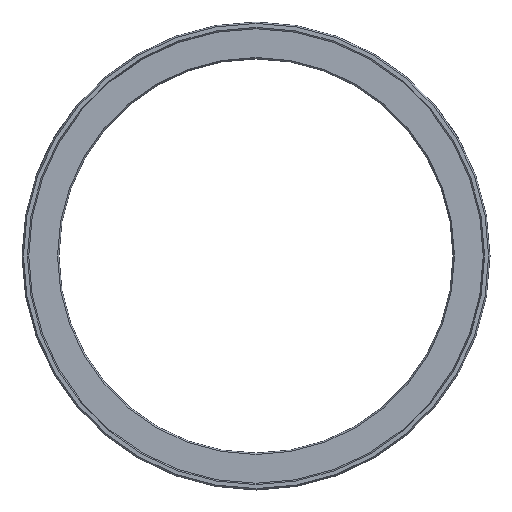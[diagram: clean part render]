
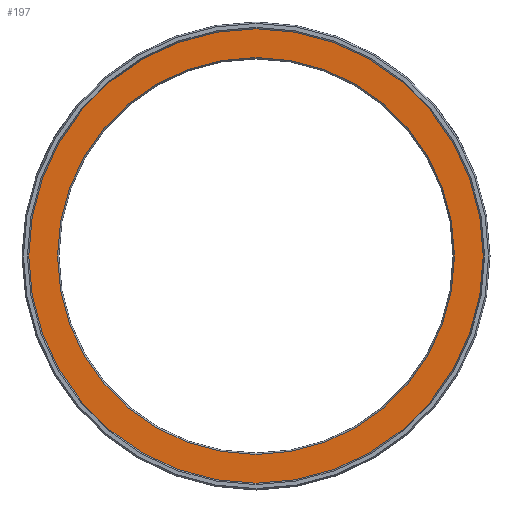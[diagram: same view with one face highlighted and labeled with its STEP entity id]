
A CAD part, left-side view. The second image highlights one B-rep face of the part: STEP entity #197.
In plain terms, the highlighted planar face has unit normal (-1, 0, 0).
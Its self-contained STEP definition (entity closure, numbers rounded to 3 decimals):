
#163=PLANE('',#797);
#197=ADVANCED_FACE('',(#265,#266),#163,.T.);
#265=FACE_BOUND('',#316,.T.);
#266=FACE_BOUND('',#317,.T.);
#316=EDGE_LOOP('',(#471));
#317=EDGE_LOOP('',(#472));
#471=ORIENTED_EDGE('',*,*,#652,.T.);
#472=ORIENTED_EDGE('',*,*,#651,.F.);
#569=VERTEX_POINT('',#1259);
#570=VERTEX_POINT('',#1262);
#651=EDGE_CURVE('',#569,#569,#709,.T.);
#652=EDGE_CURVE('',#570,#570,#710,.T.);
#709=CIRCLE('',#794,92.25);
#710=CIRCLE('',#796,80.577);
#794=AXIS2_PLACEMENT_3D('',#1258,#975,#976);
#796=AXIS2_PLACEMENT_3D('',#1261,#979,#980);
#797=AXIS2_PLACEMENT_3D('',#1263,#981,#982);
#975=DIRECTION('',(1.,0.,0.));
#976=DIRECTION('',(0.,0.,-1.));
#979=DIRECTION('',(1.,0.,0.));
#980=DIRECTION('',(0.,0.,1.));
#981=DIRECTION('',(-1.,0.,0.));
#982=DIRECTION('',(0.,0.,1.));
#1258=CARTESIAN_POINT('',(0.,0.,0.));
#1259=CARTESIAN_POINT('',(0.,0.,-92.25));
#1261=CARTESIAN_POINT('',(0.,0.,0.));
#1262=CARTESIAN_POINT('',(0.,0.,80.577));
#1263=CARTESIAN_POINT('',(0.,92.25,0.));
